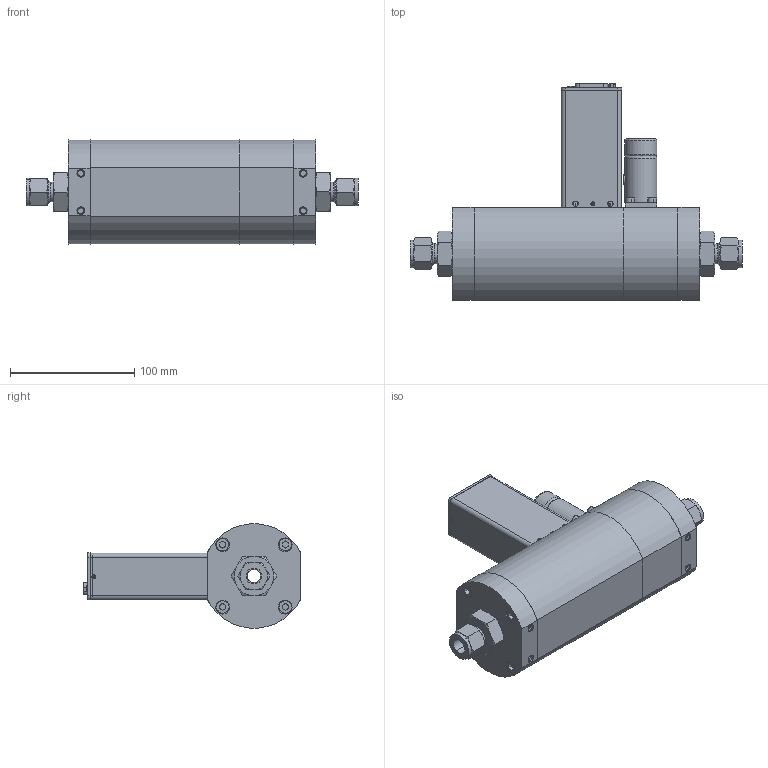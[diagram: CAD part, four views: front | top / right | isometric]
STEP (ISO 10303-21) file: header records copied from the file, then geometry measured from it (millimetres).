
FILE_DESCRIPTION (( 'STEP AP203' ), '1' );
FILE_NAME ('SLA5853-S-2D-2-C-REVB.STEP', '2023-02-15T13:53:28', ( '' ), ( '' ), 'SwSTEP 2.0', 'SolidWorks 2020', '' );
FILE_SCHEMA (( 'CONFIG_CONTROL_DESIGN' ));
Length unit declared in the file: inch
Products named in the file (1): SLA5853-S-2D-2-C-REVB
Bounding box: 266.87 x 174.37 x 83.7 mm (x, y, z)
Volume: 264982.5 mm3; surface area: 193540.3 mm2
Topology: 29 solids, 29 shells, 1367 faces, 3549 edges, 2269 vertices
Faces by surface type: plane 606, cylinder 378, cone 298, bspline 81, torus 4
Entity records: 45786 total; most frequent: CARTESIAN_POINT 12136, ORIENTED_EDGE 7074, DIRECTION 6905, EDGE_CURVE 3537, AXIS2_PLACEMENT_3D 2509, VERTEX_POINT 2269, VECTOR 1887, LINE 1887
